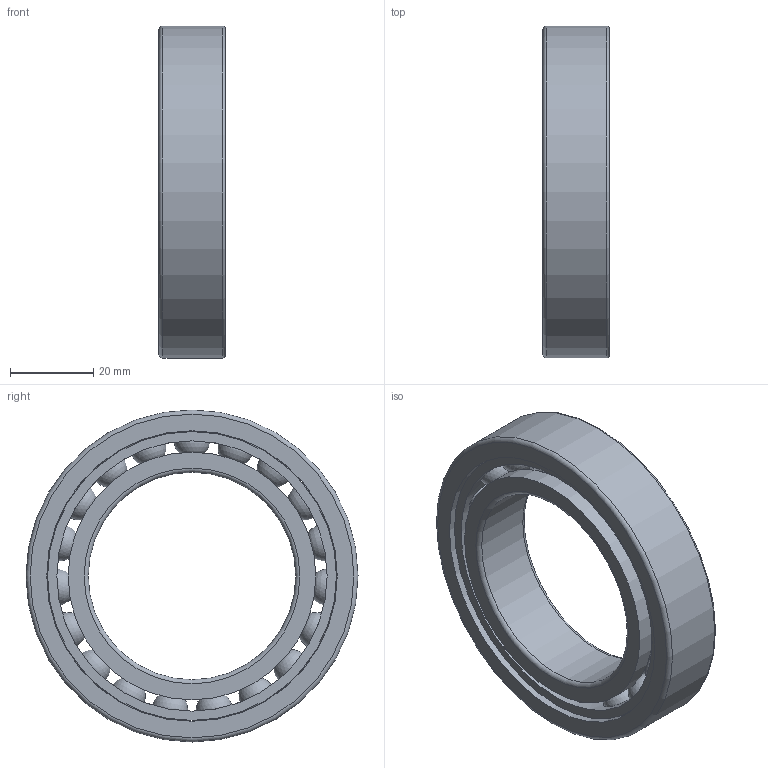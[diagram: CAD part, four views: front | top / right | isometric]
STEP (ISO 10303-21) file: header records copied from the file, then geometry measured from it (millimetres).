
FILE_DESCRIPTION(/* description */ (''),/* implementation_level */ '2;1');
FILE_NAME(/* name */ 'SM_6010_TA.step',/* time_stamp */ '2013-03-11T11:34:39+01:00',/* author */ ('Marian'),/* organization */ ('GMN'),/* preprocessor_version */ 'ST-DEVELOPER v11',/* originating_system */ 'SIEMENS UGS NX 6.0',/* authorisation */ '');
FILE_SCHEMA (('CONFIG_CONTROL_DESIGN'));
Length unit declared in the file: millimetre
Products named in the file (1): SM_6010_TA
Bounding box: 16 x 80 x 80 mm (x, y, z)
Volume: 36074.7 mm3; surface area: 26576.8 mm2
Topology: 22 solids, 22 shells, 58 faces, 148 edges, 96 vertices
Faces by surface type: cylinder 26, sphere 19, torus 6, plane 6, cone 1
Full cylindrical faces by diameter (mm): 8.931 x19, 50 x1, 59.7 x2, 65.111 x1, 69.6 x1, 70 x1, 80 x1
Entity records: 1904 total; most frequent: CARTESIAN_POINT 840, DIRECTION 158, FACE_BOUND 135, EDGE_LOOP 116, ORIENTED_EDGE 116, AXIS2_PLACEMENT_3D 79, VERTEX_POINT 77, EDGE_CURVE 58
